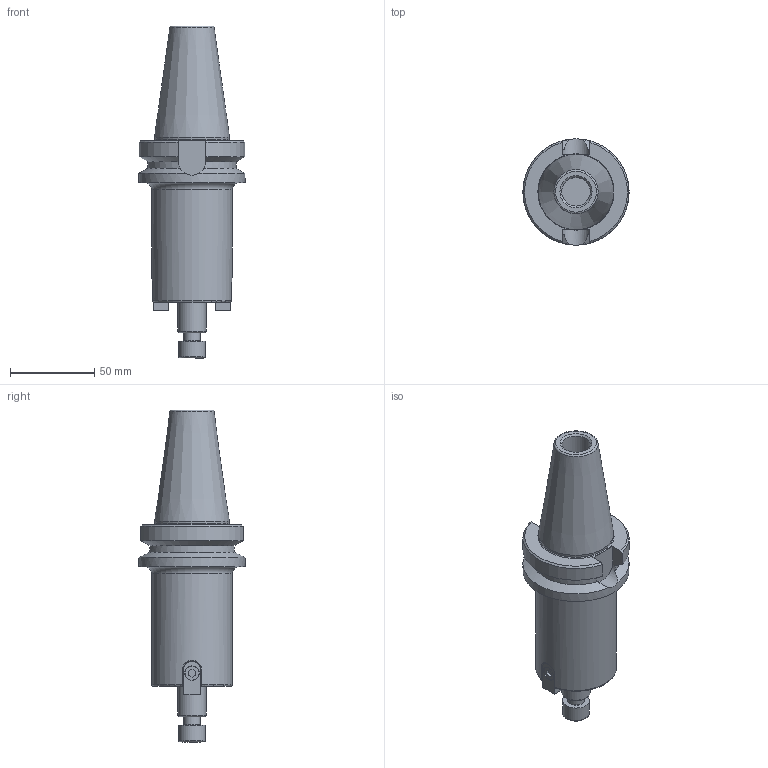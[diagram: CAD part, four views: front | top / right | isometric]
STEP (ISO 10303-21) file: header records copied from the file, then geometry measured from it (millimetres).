
FILE_DESCRIPTION(/* description */ (''),/* implementation_level */ '2;1');
FILE_NAME(/* name */ 'Z:\Проектный отдел\Алена\Патроны\BT40-FMB22-100L\BT40-FMB22-100L.stp',/* time_stamp */ '2023-12-22T13:42:34+03:00',/* author */ ('User'),/* organization */ (''),/* preprocessor_version */ 'ST-DEVELOPER v18',/* originating_system */ 'Autodesk Inventor 2020',/* authorisation */ '');
FILE_SCHEMA (('AUTOMOTIVE_DESIGN { 1 0 10303 214 3 1 1 }'));
Length unit declared in the file: millimetre
Products named in the file (4): BT40-FMB22-100L; BT40-FMB22-100L_1; Крепление; ISO 4762 - M10 x 40
Assembly tree (4 placements, depth 2):
  BT40-FMB22-100L
    BT40-FMB22-100L_1
    Крепление  x2
    ISO 4762 - M10 x 40
Bounding box: 63 x 63 x 197 mm (x, y, z)
Volume: 260477.5 mm3; surface area: 38410.6 mm2
Topology: 4 solids, 4 shells, 121 faces, 313 edges, 212 vertices
Faces by surface type: plane 68, cylinder 21, cone 13, bspline 10, torus 9
Full cylindrical faces by diameter (mm): 8.3 x2, 8.5 x2, 10 x1, 10.5 x1, 16 x1, 17 x2, 48 x1, 63 x1
Entity records: 4102 total; most frequent: CARTESIAN_POINT 1372, ORIENTED_EDGE 544, DIRECTION 514, EDGE_CURVE 272, AXIS2_PLACEMENT_3D 195, VERTEX_POINT 184, LINE 124, VECTOR 124
